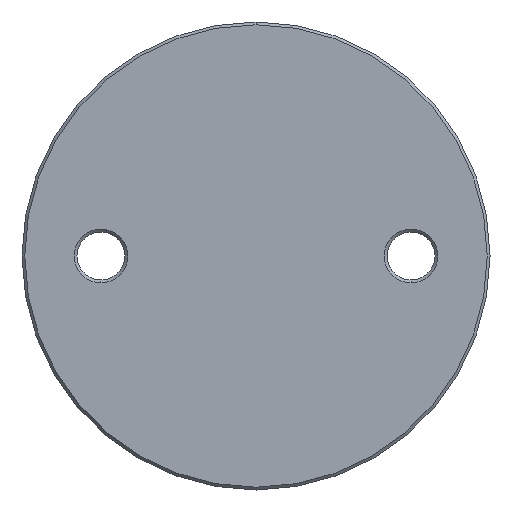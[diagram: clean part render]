
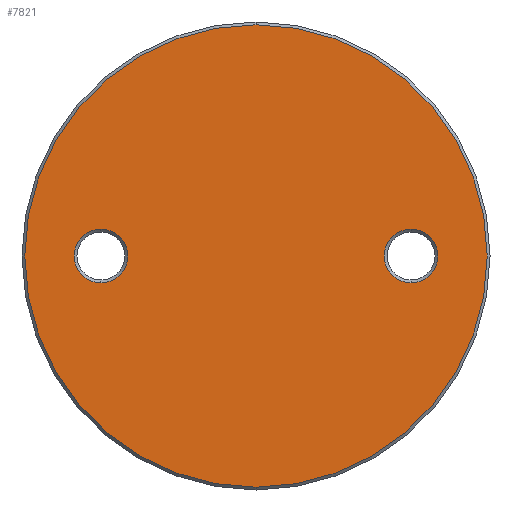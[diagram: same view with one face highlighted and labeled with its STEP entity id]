
A CAD part, front view. The second image highlights one B-rep face of the part: STEP entity #7821.
In plain terms, the highlighted planar face has unit normal (0, -1, 0).
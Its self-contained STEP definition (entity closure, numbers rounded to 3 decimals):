
#178 = CARTESIAN_POINT ( 'NONE',  ( 27.5, -3., -4.75 ) ) ;
#403 = DIRECTION ( 'NONE',  ( 0., -1., 0. ) ) ;
#821 = VERTEX_POINT ( 'NONE', #4571 ) ;
#968 = AXIS2_PLACEMENT_3D ( 'NONE', #6089, #4796, #1065 ) ;
#1065 = DIRECTION ( 'NONE',  ( 0., 0., -1. ) ) ;
#1080 = ORIENTED_EDGE ( 'NONE', *, *, #3071, .T. ) ;
#1132 = DIRECTION ( 'NONE',  ( 0., 1., 0. ) ) ;
#1183 = CIRCLE ( 'NONE', #6418, 4.75 ) ;
#1317 = EDGE_LOOP ( 'NONE', ( #2438, #7363 ) ) ;
#1413 = CARTESIAN_POINT ( 'NONE',  ( -27.5, -3., 4.75 ) ) ;
#1559 = VERTEX_POINT ( 'NONE', #178 ) ;
#1668 = CARTESIAN_POINT ( 'NONE',  ( 0., -3., 0. ) ) ;
#1792 = AXIS2_PLACEMENT_3D ( 'NONE', #6031, #7304, #2247 ) ;
#1964 = FACE_BOUND ( 'NONE', #5750, .T. ) ;
#2062 = AXIS2_PLACEMENT_3D ( 'NONE', #3362, #7784, #7840 ) ;
#2103 = ORIENTED_EDGE ( 'NONE', *, *, #4884, .T. ) ;
#2166 = EDGE_CURVE ( 'NONE', #1559, #4707, #7570, .T. ) ;
#2247 = DIRECTION ( 'NONE',  ( 0., 0., -1. ) ) ;
#2437 = AXIS2_PLACEMENT_3D ( 'NONE', #6754, #1132, #5550 ) ;
#2438 = ORIENTED_EDGE ( 'NONE', *, *, #2166, .T. ) ;
#2688 = CARTESIAN_POINT ( 'NONE',  ( 0., -3., -41. ) ) ;
#2760 = ORIENTED_EDGE ( 'NONE', *, *, #4443, .T. ) ;
#2898 = EDGE_LOOP ( 'NONE', ( #2103, #2760 ) ) ;
#2914 = DIRECTION ( 'NONE',  ( 0., 0., -1. ) ) ;
#2916 = VERTEX_POINT ( 'NONE', #1413 ) ;
#3019 = VERTEX_POINT ( 'NONE', #7133 ) ;
#3071 = EDGE_CURVE ( 'NONE', #821, #2916, #4300, .T. ) ;
#3362 = CARTESIAN_POINT ( 'NONE',  ( 0., -3., 0. ) ) ;
#3743 = AXIS2_PLACEMENT_3D ( 'NONE', #1668, #6074, #2914 ) ;
#3822 = FACE_BOUND ( 'NONE', #1317, .T. ) ;
#3898 = DIRECTION ( 'NONE',  ( 0., 1., 0. ) ) ;
#3946 = CARTESIAN_POINT ( 'NONE',  ( -27.5, -3., 0. ) ) ;
#4153 = CARTESIAN_POINT ( 'NONE',  ( 0., -3., 41.5 ) ) ;
#4300 = CIRCLE ( 'NONE', #1792, 4.75 ) ;
#4443 = EDGE_CURVE ( 'NONE', #5986, #3019, #6554, .T. ) ;
#4571 = CARTESIAN_POINT ( 'NONE',  ( -27.5, -3., -4.75 ) ) ;
#4629 = DIRECTION ( 'NONE',  ( 0., 0., -1. ) ) ;
#4707 = VERTEX_POINT ( 'NONE', #7752 ) ;
#4796 = DIRECTION ( 'NONE',  ( 0., 1., 0. ) ) ;
#4884 = EDGE_CURVE ( 'NONE', #3019, #5986, #7823, .T. ) ;
#5314 = ORIENTED_EDGE ( 'NONE', *, *, #6968, .T. ) ;
#5399 = AXIS2_PLACEMENT_3D ( 'NONE', #4153, #403, #7292 ) ;
#5550 = DIRECTION ( 'NONE',  ( 0., 0., -1. ) ) ;
#5750 = EDGE_LOOP ( 'NONE', ( #1080, #5314 ) ) ;
#5986 = VERTEX_POINT ( 'NONE', #2688 ) ;
#6028 = CIRCLE ( 'NONE', #2437, 4.75 ) ;
#6031 = CARTESIAN_POINT ( 'NONE',  ( -27.5, -3., 0. ) ) ;
#6070 = EDGE_CURVE ( 'NONE', #4707, #1559, #6028, .T. ) ;
#6074 = DIRECTION ( 'NONE',  ( 0., -1., 0. ) ) ;
#6089 = CARTESIAN_POINT ( 'NONE',  ( 27.5, -3., 0. ) ) ;
#6400 = FACE_OUTER_BOUND ( 'NONE', #2898, .T. ) ;
#6418 = AXIS2_PLACEMENT_3D ( 'NONE', #3946, #3898, #4629 ) ;
#6554 = CIRCLE ( 'NONE', #3743, 41. ) ;
#6754 = CARTESIAN_POINT ( 'NONE',  ( 27.5, -3., 0. ) ) ;
#6968 = EDGE_CURVE ( 'NONE', #2916, #821, #1183, .T. ) ;
#7133 = CARTESIAN_POINT ( 'NONE',  ( 0., -3., 41. ) ) ;
#7292 = DIRECTION ( 'NONE',  ( 0., 0., -1. ) ) ;
#7304 = DIRECTION ( 'NONE',  ( 0., 1., 0. ) ) ;
#7320 = PLANE ( 'NONE',  #5399 ) ;
#7363 = ORIENTED_EDGE ( 'NONE', *, *, #6070, .T. ) ;
#7570 = CIRCLE ( 'NONE', #968, 4.75 ) ;
#7752 = CARTESIAN_POINT ( 'NONE',  ( 27.5, -3., 4.75 ) ) ;
#7784 = DIRECTION ( 'NONE',  ( 0., -1., 0. ) ) ;
#7821 = ADVANCED_FACE ( 'NONE', ( #3822, #1964, #6400 ), #7320, .T. ) ;
#7823 = CIRCLE ( 'NONE', #2062, 41. ) ;
#7840 = DIRECTION ( 'NONE',  ( 0., 0., -1. ) ) ;
